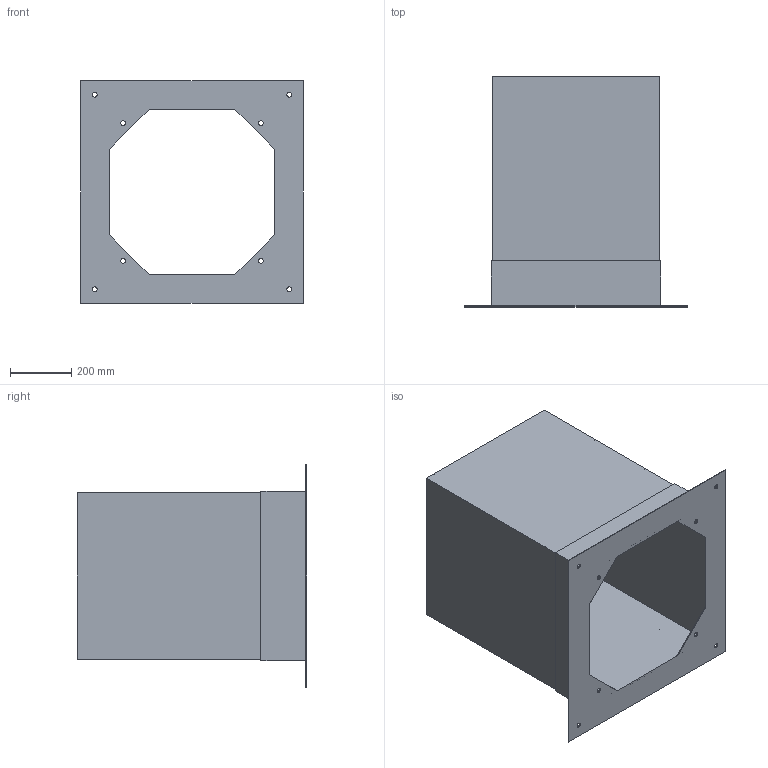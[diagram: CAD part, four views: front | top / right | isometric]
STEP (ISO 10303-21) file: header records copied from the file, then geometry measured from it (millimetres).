
FILE_DESCRIPTION(('STEP AP214'),'1');
FILE_NAME('accessory_5136863700.stp','2017-10-09T10:29:55',('TraceParts'),('TraceParts S.A.'),'Spatial InterOp 3D',' ',' ');
FILE_SCHEMA(('automotive_design'));
Length unit declared in the file: millimetre
Products named in the file (1): accessory_5136863700
Bounding box: 725 x 750 x 725 mm (x, y, z)
Volume: 8943550.7 mm3; surface area: 3855265.2 mm2
Topology: 1 solids, 1 shells, 60 faces, 168 edges, 112 vertices
Faces by surface type: plane 36, cylinder 24
Entity records: 2488 total; most frequent: CARTESIAN_POINT 341, DIRECTION 338, ORIENTED_EDGE 336, EDGE_CURVE 168, LINE 120, VECTOR 120, VERTEX_POINT 112, AXIS2_PLACEMENT_3D 109
